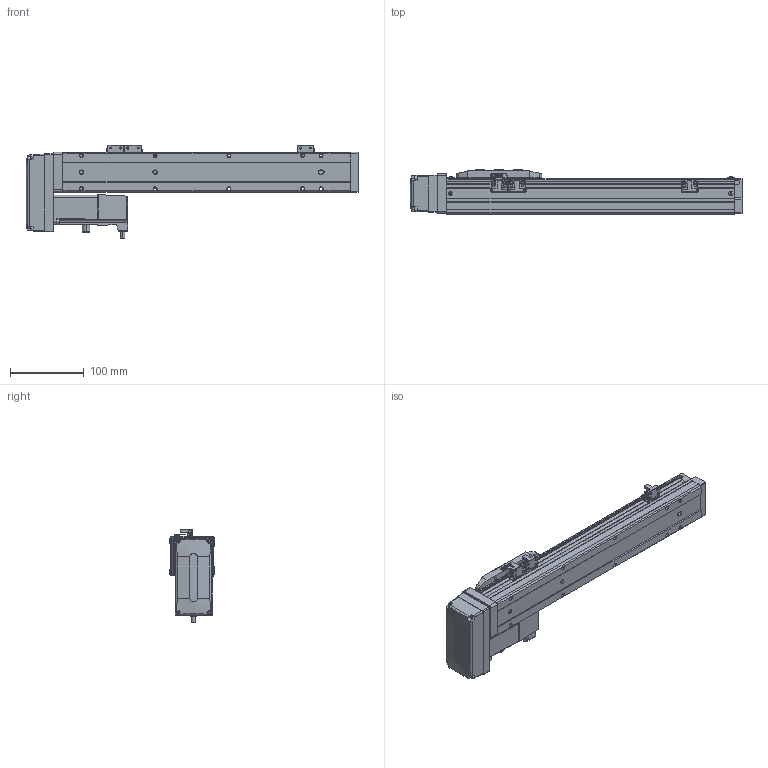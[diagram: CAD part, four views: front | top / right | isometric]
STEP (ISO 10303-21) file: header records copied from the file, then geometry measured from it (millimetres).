
FILE_DESCRIPTION (( 'STEP AP203' ), '1' );
FILE_NAME ('CTH5-L10-S250-BR-C10(¼ò).STEP', '2023-02-04T02:29:43', ( '' ), ( '' ), 'SwSTEP 2.0', 'SolidWorks 2018', '' );
FILE_SCHEMA (( 'CONFIG_CONTROL_DESIGN' ));
Length unit declared in the file: millimetre
Products named in the file (22): CTH5-L10-S250-BR-C10(潠); hex nuts, style 1-grades ab gb_GB_FASTENER_NUT_SNAB1 M3-N; 嫖萇羲壽郪磁1; CTH嫖萇羲壽假蚾啣; CTH5-BL-T10_body5; CTH5覜茼え; CTH5菁釱-L390; CTH5耜蚾蟀諉啣(潠); 葩璃 蚾饜极13^CTH8-L10-S50-BM-C40(潠)1; CTH5耜晚蹟隊; CTH5賑怢; CTH5綴耜啣; T10-p1; CTH5ヶ耜啣(潠); CTH5耜晚蹟隊-1; 葩璃 蚾饜极16^CTH5-L10-S250-BR-C10(潠); CTH5耜蚾欶; PM-Y45; CTH100W假蚾啣; 100W萇儂; M3｡｣; 内六角圆柱头螺钉M3-2
Assembly tree (37 placements, depth 4):
  CTH5-L10-S250-BR-C10(潠)
    CTH5綴耜啣
    CTH5賑怢
    CTH5ヶ耜啣(潠)
    CTH5菁釱-L390
    CTH5耜晚蹟隊  x2
    嫖萇羲壽郪磁1  x2
      CTH嫖萇羲壽假蚾啣
      PM-Y45
      M3｡｣
      内六角圆柱头螺钉M3-2
      hex nuts, style 1-grades ab gb_GB_FASTENER_NUT_SNAB1 M3-N
    CTH5覜茼え
    葩璃 蚾饜极13^CTH8-L10-S50-BM-C40(潠)1
      CTH嫖萇羲壽假蚾啣
      PM-Y45
      内六角圆柱头螺钉M3-2  x2
      M3｡｣  x2
      hex nuts, style 1-grades ab gb_GB_FASTENER_NUT_SNAB1 M3-N  x2
    CTH5耜晚蹟隊-1  x4
    葩璃 蚾饜极16^CTH5-L10-S250-BR-C10(潠)
      CTH5耜蚾蟀諉啣(潠)
      CTH5耜蚾欶
        CTH5-BL-T10_body5
      100W萇儂
        T10-p1
      CTH100W假蚾啣
Bounding box: 450 x 60 x 126.31 mm (x, y, z)
Volume: 1248255.2 mm3; surface area: 198454.3 mm2
Topology: 39 solids, 39 shells, 1583 faces, 3965 edges, 2564 vertices
Faces by surface type: plane 890, cylinder 460, cone 175, torus 40, bspline 18
Entity records: 36667 total; most frequent: CARTESIAN_POINT 6788, DIRECTION 5769, ORIENTED_EDGE 5554, EDGE_CURVE 2777, AXIS2_PLACEMENT_3D 1976, VECTOR 1817, LINE 1817, VERTEX_POINT 1792
